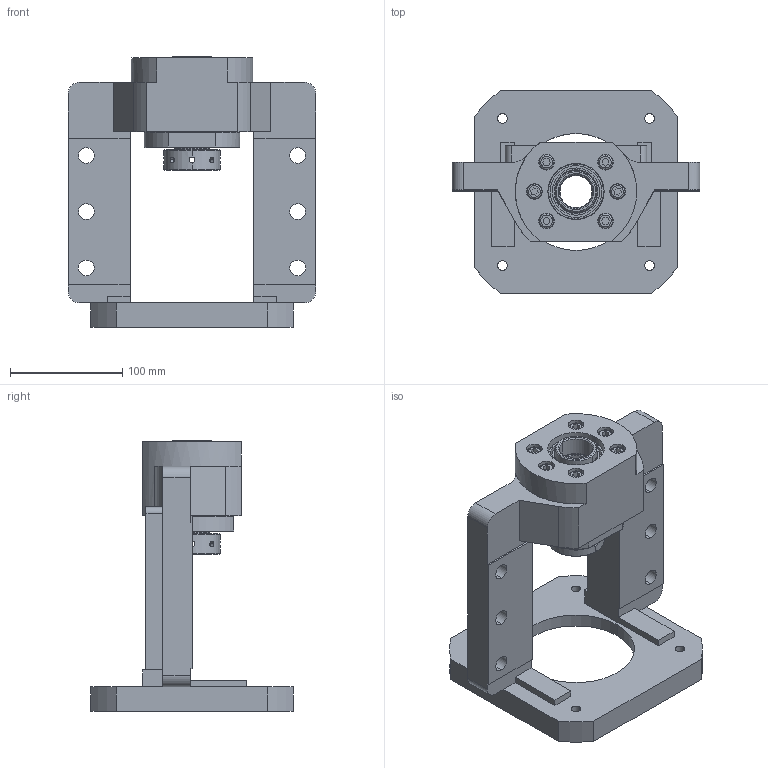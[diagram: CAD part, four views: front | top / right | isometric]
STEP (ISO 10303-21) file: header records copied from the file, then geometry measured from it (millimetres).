
FILE_DESCRIPTION (( 'STEP AP203' ), '1' );
FILE_NAME ('MBCK30L-J²Õ¦X¥ó.STEP', '2025-09-18T03:31:33', ( '' ), ( '' ), 'SwSTEP 2.0', 'SolidWorks 2018', '' );
FILE_SCHEMA (( 'CONFIG_CONTROL_DESIGN' ));
Length unit declared in the file: millimetre
Products named in the file (2): MBCK30L-J組合件
Bounding box: 220 x 180 x 241 mm (x, y, z)
Surface area: 228527.1 mm2 (no closed solid volume)
Topology: 0 solids, 32 shells, 338 faces, 941 edges, 629 vertices
Faces by surface type: cylinder 124, plane 124, cone 58, torus 26, bspline 6
Entity records: 20287 total; most frequent: CARTESIAN_POINT 11490, DIRECTION 1866, ORIENTED_EDGE 1633, EDGE_CURVE 933, AXIS2_PLACEMENT_3D 731, VERTEX_POINT 629, EDGE_LOOP 414, VECTOR 404
